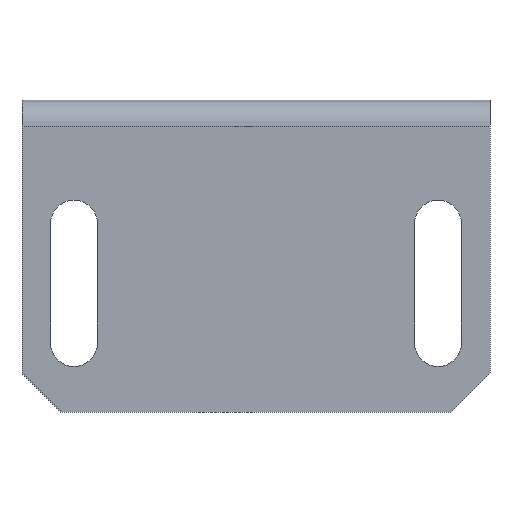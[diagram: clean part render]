
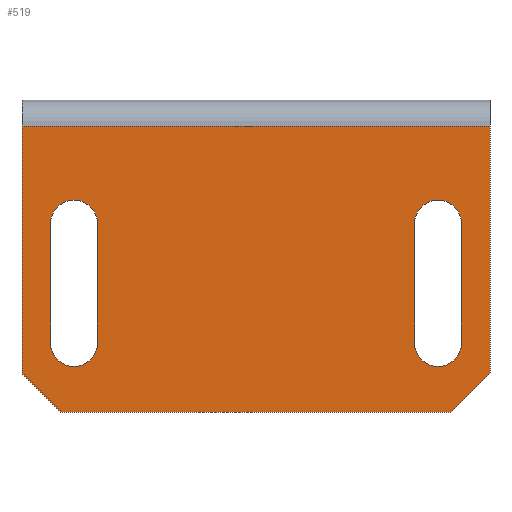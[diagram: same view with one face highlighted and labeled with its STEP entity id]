
A CAD part, front view. The second image highlights one B-rep face of the part: STEP entity #519.
In plain terms, the highlighted planar face has unit normal (0, -1, 0).
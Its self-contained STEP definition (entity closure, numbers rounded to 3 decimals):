
#32=FACE_BOUND('',#113,.T.);
#33=FACE_BOUND('',#114,.T.);
#40=CIRCLE('',#548,4.5);
#41=CIRCLE('',#551,4.5);
#42=CIRCLE('',#554,4.5);
#43=CIRCLE('',#557,4.5);
#80=FACE_OUTER_BOUND('',#112,.T.);
#112=EDGE_LOOP('',(#462,#463,#464,#465,#466,#467));
#113=EDGE_LOOP('',(#468,#469,#470,#471));
#114=EDGE_LOOP('',(#472,#473,#474,#475));
#116=LINE('',#735,#166);
#122=LINE('',#746,#172);
#132=LINE('',#774,#182);
#136=LINE('',#786,#186);
#137=LINE('',#790,#187);
#141=LINE('',#799,#191);
#143=LINE('',#806,#193);
#147=LINE('',#815,#197);
#159=LINE('',#855,#209);
#165=LINE('',#876,#215);
#166=VECTOR('',#587,10.);
#172=VECTOR('',#595,10.);
#182=VECTOR('',#617,10.);
#186=VECTOR('',#627,10.);
#187=VECTOR('',#630,10.);
#191=VECTOR('',#640,10.);
#193=VECTOR('',#648,10.);
#197=VECTOR('',#658,10.);
#209=VECTOR('',#698,10.);
#215=VECTOR('',#728,10.);
#216=VERTEX_POINT('',#733);
#217=VERTEX_POINT('',#734);
#221=VERTEX_POINT('',#744);
#233=VERTEX_POINT('',#772);
#238=VERTEX_POINT('',#784);
#239=VERTEX_POINT('',#788);
#240=VERTEX_POINT('',#789);
#241=VERTEX_POINT('',#794);
#242=VERTEX_POINT('',#798);
#243=VERTEX_POINT('',#804);
#244=VERTEX_POINT('',#805);
#245=VERTEX_POINT('',#810);
#246=VERTEX_POINT('',#814);
#260=VERTEX_POINT('',#854);
#264=EDGE_CURVE('',#216,#217,#116,.T.);
#270=EDGE_CURVE('',#216,#221,#122,.T.);
#284=EDGE_CURVE('',#233,#221,#132,.T.);
#290=EDGE_CURVE('',#238,#233,#136,.T.);
#291=EDGE_CURVE('',#239,#240,#137,.T.);
#294=EDGE_CURVE('',#240,#241,#40,.T.);
#296=EDGE_CURVE('',#241,#242,#141,.T.);
#298=EDGE_CURVE('',#242,#239,#41,.T.);
#299=EDGE_CURVE('',#243,#244,#143,.T.);
#302=EDGE_CURVE('',#244,#245,#42,.T.);
#304=EDGE_CURVE('',#245,#246,#147,.T.);
#306=EDGE_CURVE('',#246,#243,#43,.T.);
#324=EDGE_CURVE('',#217,#260,#159,.T.);
#335=EDGE_CURVE('',#260,#238,#165,.T.);
#462=ORIENTED_EDGE('',*,*,#264,.F.);
#463=ORIENTED_EDGE('',*,*,#270,.T.);
#464=ORIENTED_EDGE('',*,*,#284,.F.);
#465=ORIENTED_EDGE('',*,*,#290,.F.);
#466=ORIENTED_EDGE('',*,*,#335,.F.);
#467=ORIENTED_EDGE('',*,*,#324,.F.);
#468=ORIENTED_EDGE('',*,*,#296,.T.);
#469=ORIENTED_EDGE('',*,*,#298,.T.);
#470=ORIENTED_EDGE('',*,*,#291,.T.);
#471=ORIENTED_EDGE('',*,*,#294,.T.);
#472=ORIENTED_EDGE('',*,*,#304,.T.);
#473=ORIENTED_EDGE('',*,*,#306,.T.);
#474=ORIENTED_EDGE('',*,*,#299,.T.);
#475=ORIENTED_EDGE('',*,*,#302,.T.);
#494=PLANE('',#581);
#519=ADVANCED_FACE('',(#80,#32,#33),#494,.T.);
#548=AXIS2_PLACEMENT_3D('',#795,#635,#636);
#551=AXIS2_PLACEMENT_3D('',#802,#644,#645);
#554=AXIS2_PLACEMENT_3D('',#811,#653,#654);
#557=AXIS2_PLACEMENT_3D('',#818,#662,#663);
#581=AXIS2_PLACEMENT_3D('',#875,#726,#727);
#587=DIRECTION('',(-0.707,0.,0.707));
#595=DIRECTION('',(1.,0.,0.));
#617=DIRECTION('',(-0.707,0.,-0.707));
#627=DIRECTION('',(0.,0.,-1.));
#630=DIRECTION('',(0.,0.,-1.));
#635=DIRECTION('center_axis',(0.,1.,0.));
#636=DIRECTION('ref_axis',(1.,0.,0.));
#640=DIRECTION('',(0.,0.,1.));
#644=DIRECTION('center_axis',(0.,1.,0.));
#645=DIRECTION('ref_axis',(-1.,0.,0.));
#648=DIRECTION('',(0.,0.,-1.));
#653=DIRECTION('center_axis',(0.,1.,0.));
#654=DIRECTION('ref_axis',(1.,0.,0.));
#658=DIRECTION('',(0.,0.,1.));
#662=DIRECTION('center_axis',(0.,1.,0.));
#663=DIRECTION('ref_axis',(-1.,0.,0.));
#698=DIRECTION('',(0.,0.,1.));
#726=DIRECTION('center_axis',(0.,-1.,0.));
#727=DIRECTION('ref_axis',(0.,0.,-1.));
#728=DIRECTION('',(1.,0.,0.));
#733=CARTESIAN_POINT('',(-37.5,0.,-60.));
#734=CARTESIAN_POINT('',(-45.,0.,-52.5));
#735=CARTESIAN_POINT('',(-43.75,0.,-53.75));
#744=CARTESIAN_POINT('',(37.5,0.,-60.));
#746=CARTESIAN_POINT('',(0.,0.,-60.));
#772=CARTESIAN_POINT('',(45.,0.,-52.5));
#774=CARTESIAN_POINT('',(43.75,0.,-53.75));
#784=CARTESIAN_POINT('',(45.,0.,-5.));
#786=CARTESIAN_POINT('',(45.,0.,-5.));
#788=CARTESIAN_POINT('',(39.5,0.,-23.75));
#789=CARTESIAN_POINT('',(39.5,0.,-46.75));
#790=CARTESIAN_POINT('',(39.5,0.,-25.875));
#794=CARTESIAN_POINT('',(30.5,0.,-46.75));
#795=CARTESIAN_POINT('Origin',(35.,0.,-46.75));
#798=CARTESIAN_POINT('',(30.5,0.,-23.75));
#799=CARTESIAN_POINT('',(30.5,0.,-14.375));
#802=CARTESIAN_POINT('Origin',(35.,0.,-23.75));
#804=CARTESIAN_POINT('',(-30.5,0.,-23.75));
#805=CARTESIAN_POINT('',(-30.5,0.,-46.75));
#806=CARTESIAN_POINT('',(-30.5,0.,-25.875));
#810=CARTESIAN_POINT('',(-39.5,0.,-46.75));
#811=CARTESIAN_POINT('Origin',(-35.,0.,-46.75));
#814=CARTESIAN_POINT('',(-39.5,0.,-23.75));
#815=CARTESIAN_POINT('',(-39.5,0.,-14.375));
#818=CARTESIAN_POINT('Origin',(-35.,0.,-23.75));
#854=CARTESIAN_POINT('',(-45.,0.,-5.));
#855=CARTESIAN_POINT('',(-45.,0.,-5.));
#875=CARTESIAN_POINT('Origin',(0.,0.,-5.));
#876=CARTESIAN_POINT('',(0.,0.,-5.));
